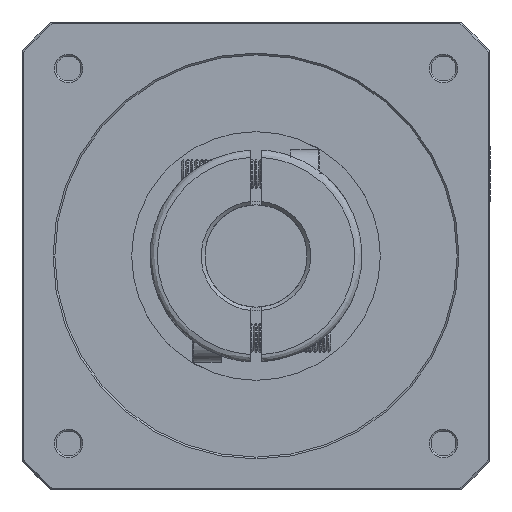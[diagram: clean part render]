
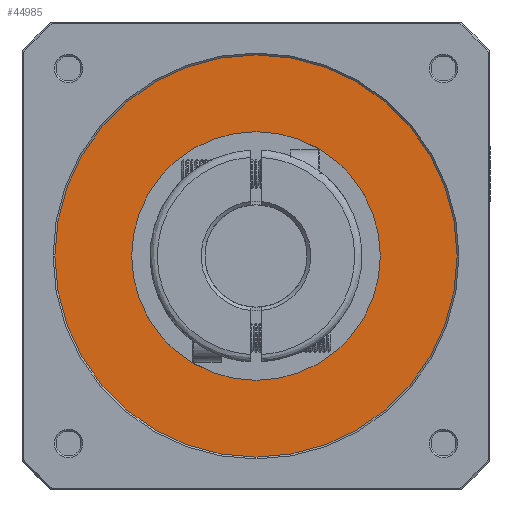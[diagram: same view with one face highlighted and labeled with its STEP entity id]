
A CAD part, front view. The second image highlights one B-rep face of the part: STEP entity #44985.
In plain terms, the highlighted planar face has unit normal (0, 1, 0).
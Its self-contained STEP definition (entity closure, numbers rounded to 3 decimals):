
#1221 = VERTEX_POINT ( 'NONE', #4749 ) ;
#3002 = AXIS2_PLACEMENT_3D ( 'NONE', #44044, #97507, #51679 ) ;
#4749 = CARTESIAN_POINT ( 'NONE',  ( 0., -103.111, 34. ) ) ;
#9127 = EDGE_LOOP ( 'NONE', ( #76364, #29227 ) ) ;
#13181 = CARTESIAN_POINT ( 'NONE',  ( 0., -103.111, 55. ) ) ;
#13314 = FACE_OUTER_BOUND ( 'NONE', #9127, .T. ) ;
#14308 = EDGE_LOOP ( 'NONE', ( #90132, #61098 ) ) ;
#17253 = AXIS2_PLACEMENT_3D ( 'NONE', #64927, #19208, #72641 ) ;
#18088 = AXIS2_PLACEMENT_3D ( 'NONE', #82710, #36968, #90380 ) ;
#19208 = DIRECTION ( 'NONE',  ( 0., -1., 0. ) ) ;
#24536 = DIRECTION ( 'NONE',  ( 0., -1., 0. ) ) ;
#29227 = ORIENTED_EDGE ( 'NONE', *, *, #91221, .T. ) ;
#29395 = VERTEX_POINT ( 'NONE', #13181 ) ;
#31660 = VERTEX_POINT ( 'NONE', #33317 ) ;
#33317 = CARTESIAN_POINT ( 'NONE',  ( 0., -103.111, -34. ) ) ;
#33338 = CARTESIAN_POINT ( 'NONE',  ( 0., -103.111, 0. ) ) ;
#36968 = DIRECTION ( 'NONE',  ( 0., -1., 0. ) ) ;
#40955 = DIRECTION ( 'NONE',  ( 0., 0., -1. ) ) ;
#43595 = EDGE_CURVE ( 'NONE', #92690, #29395, #50402, .T. ) ;
#44044 = CARTESIAN_POINT ( 'NONE',  ( 0., -103.111, 0. ) ) ;
#44985 = ADVANCED_FACE ( 'NONE', ( #51461, #13314 ), #51912, .F. ) ;
#49801 = CIRCLE ( 'NONE', #98301, 34. ) ;
#50402 = CIRCLE ( 'NONE', #78782, 55. ) ;
#51461 = FACE_BOUND ( 'NONE', #14308, .T. ) ;
#51679 = DIRECTION ( 'NONE',  ( 0., 0., -1. ) ) ;
#51912 = PLANE ( 'NONE',  #18088 ) ;
#55620 = CIRCLE ( 'NONE', #3002, 55. ) ;
#61098 = ORIENTED_EDGE ( 'NONE', *, *, #74576, .T. ) ;
#64927 = CARTESIAN_POINT ( 'NONE',  ( 0., -103.111, 0. ) ) ;
#70247 = CARTESIAN_POINT ( 'NONE',  ( 0., -103.111, 0. ) ) ;
#72641 = DIRECTION ( 'NONE',  ( 0., 0., 1. ) ) ;
#72902 = CIRCLE ( 'NONE', #17253, 34. ) ;
#74576 = EDGE_CURVE ( 'NONE', #31660, #1221, #72902, .T. ) ;
#76364 = ORIENTED_EDGE ( 'NONE', *, *, #43595, .T. ) ;
#77957 = DIRECTION ( 'NONE',  ( 0., 0., 1. ) ) ;
#78782 = AXIS2_PLACEMENT_3D ( 'NONE', #33338, #86707, #40955 ) ;
#82710 = CARTESIAN_POINT ( 'NONE',  ( -55.66, -103.111, -55.66 ) ) ;
#86707 = DIRECTION ( 'NONE',  ( 0., 1., 0. ) ) ;
#88680 = CARTESIAN_POINT ( 'NONE',  ( 0., -103.111, -55. ) ) ;
#88941 = EDGE_CURVE ( 'NONE', #1221, #31660, #49801, .T. ) ;
#90132 = ORIENTED_EDGE ( 'NONE', *, *, #88941, .T. ) ;
#90380 = DIRECTION ( 'NONE',  ( 1., 0., 0. ) ) ;
#91221 = EDGE_CURVE ( 'NONE', #29395, #92690, #55620, .T. ) ;
#92690 = VERTEX_POINT ( 'NONE', #88680 ) ;
#97507 = DIRECTION ( 'NONE',  ( 0., 1., 0. ) ) ;
#98301 = AXIS2_PLACEMENT_3D ( 'NONE', #70247, #24536, #77957 ) ;
